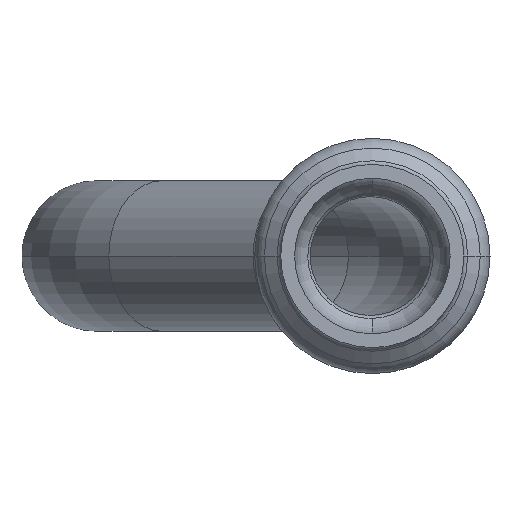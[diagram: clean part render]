
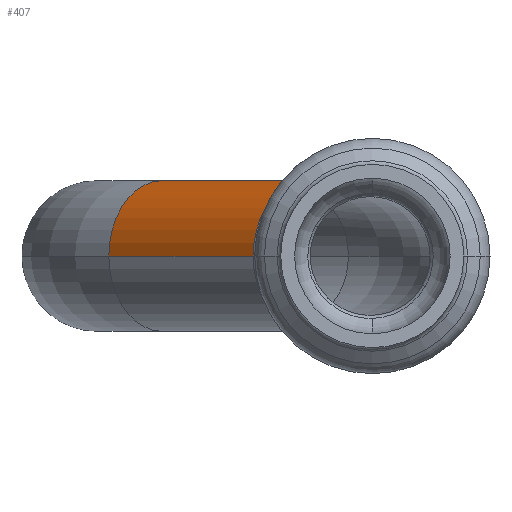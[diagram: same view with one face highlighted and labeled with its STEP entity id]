
A CAD part, left-side view. The second image highlights one B-rep face of the part: STEP entity #407.
In plain terms, the highlighted cylindrical face has radius 7.35 mm (diameter 14.7 mm), a partial arc.
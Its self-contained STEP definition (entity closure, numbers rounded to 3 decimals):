
#316 = EDGE_LOOP ( 'NONE', ( #3759, #1051, #1983, #1754 ) ) ;
#352 = CARTESIAN_POINT ( 'NONE',  ( -34.866, 11.641, 0. ) ) ;
#407 = ADVANCED_FACE ( 'NONE', ( #857 ), #4106, .T. ) ;
#449 = VERTEX_POINT ( 'NONE', #2344 ) ;
#605 = DIRECTION ( 'NONE',  ( 0.707, 0.707, 0. ) ) ;
#664 = EDGE_CURVE ( 'NONE', #2724, #2140, #3584, .T. ) ;
#857 = FACE_OUTER_BOUND ( 'NONE', #316, .T. ) ;
#941 = CARTESIAN_POINT ( 'NONE',  ( -29.669, 6.444, 0. ) ) ;
#1051 = ORIENTED_EDGE ( 'NONE', *, *, #664, .T. ) ;
#1298 = DIRECTION ( 'NONE',  ( -0.707, 0.707, 0. ) ) ;
#1640 = DIRECTION ( 'NONE',  ( 0.707, 0.707, 0. ) ) ;
#1754 = ORIENTED_EDGE ( 'NONE', *, *, #2431, .F. ) ;
#1769 = LINE ( 'NONE', #352, #4257 ) ;
#1903 = VECTOR ( 'NONE', #4091, 1000. ) ;
#1922 = DIRECTION ( 'NONE',  ( 0.707, 0.707, 0. ) ) ;
#1983 = ORIENTED_EDGE ( 'NONE', *, *, #3632, .F. ) ;
#2140 = VERTEX_POINT ( 'NONE', #3731 ) ;
#2344 = CARTESIAN_POINT ( 'NONE',  ( -20.754, 25.754, 0. ) ) ;
#2418 = AXIS2_PLACEMENT_3D ( 'NONE', #3674, #1640, #4011 ) ;
#2431 = EDGE_CURVE ( 'NONE', #3845, #449, #1769, .T. ) ;
#2526 = CIRCLE ( 'NONE', #2418, 7.35 ) ;
#2693 = CARTESIAN_POINT ( 'NONE',  ( -24.472, 1.246, 0. ) ) ;
#2724 = VERTEX_POINT ( 'NONE', #2693 ) ;
#2997 = EDGE_CURVE ( 'NONE', #3845, #2724, #3987, .T. ) ;
#3038 = AXIS2_PLACEMENT_3D ( 'NONE', #3932, #1922, #4278 ) ;
#3421 = DIRECTION ( 'NONE',  ( 0.707, 0.707, 0. ) ) ;
#3584 = LINE ( 'NONE', #3744, #1903 ) ;
#3632 = EDGE_CURVE ( 'NONE', #449, #2140, #2526, .T. ) ;
#3674 = CARTESIAN_POINT ( 'NONE',  ( -15.556, 20.556, 0. ) ) ;
#3731 = CARTESIAN_POINT ( 'NONE',  ( -10.359, 15.359, 0. ) ) ;
#3744 = CARTESIAN_POINT ( 'NONE',  ( -24.472, 1.246, 0. ) ) ;
#3747 = CARTESIAN_POINT ( 'NONE',  ( -34.866, 11.641, 0. ) ) ;
#3759 = ORIENTED_EDGE ( 'NONE', *, *, #2997, .T. ) ;
#3845 = VERTEX_POINT ( 'NONE', #3747 ) ;
#3932 = CARTESIAN_POINT ( 'NONE',  ( -29.669, 6.444, 0. ) ) ;
#3987 = CIRCLE ( 'NONE', #3038, 7.35 ) ;
#4011 = DIRECTION ( 'NONE',  ( 0., 0., -1. ) ) ;
#4091 = DIRECTION ( 'NONE',  ( 0.707, 0.707, 0. ) ) ;
#4106 = CYLINDRICAL_SURFACE ( 'NONE', #4380, 7.35 ) ;
#4257 = VECTOR ( 'NONE', #3421, 1000. ) ;
#4278 = DIRECTION ( 'NONE',  ( 0., 0., -1. ) ) ;
#4380 = AXIS2_PLACEMENT_3D ( 'NONE', #941, #605, #1298 ) ;
